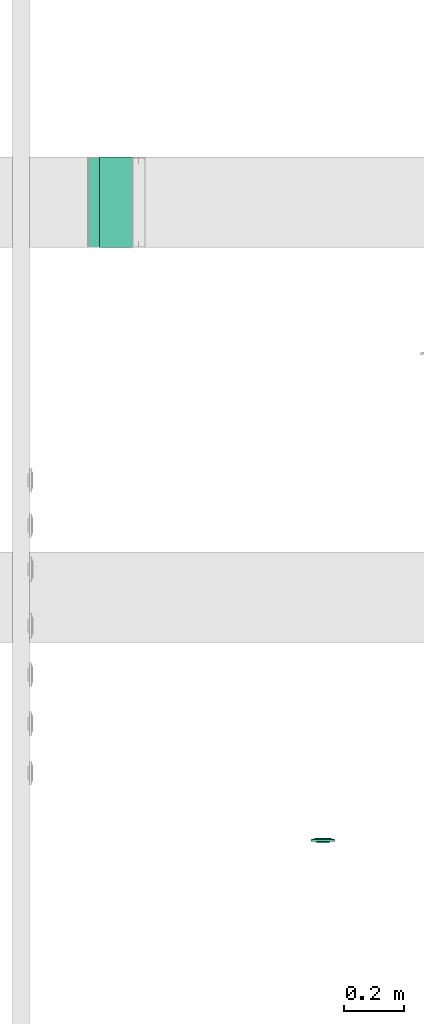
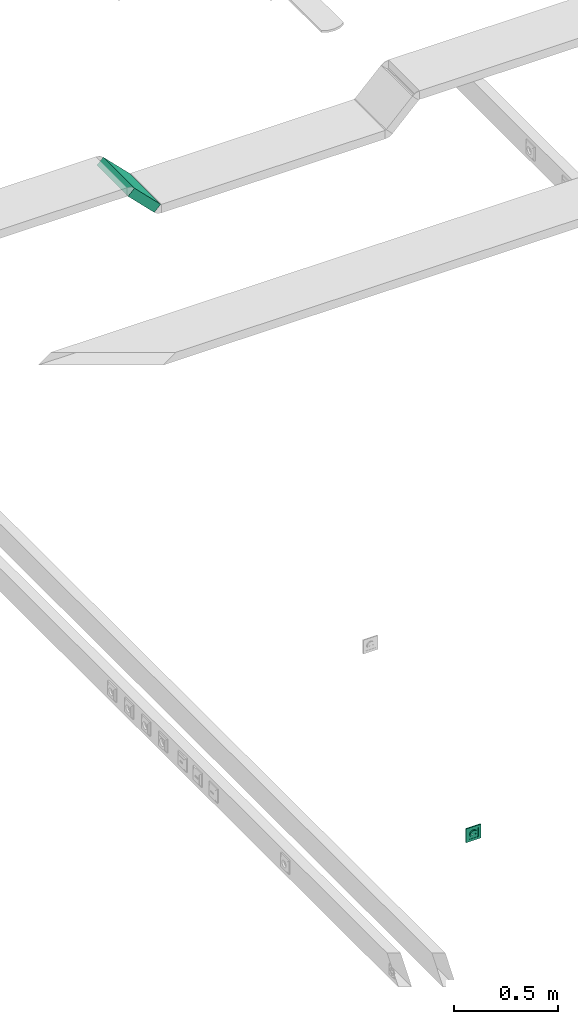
# One storey, part 52 of 166: 1 flow segment, 1 flow terminal.
"""IFC2X3 building model written with IfcOpenShell, lengths in metres."""

import ifcopenshell
import ifcopenshell.guid

model = None  # the IFC model being written
_history = None  # IfcOwnerHistory: only IFC2X3 demands one
_inside = {}  # id of a spatial element -> (the spatial element, [elements in it])
_under = {}  # id of a project, library or spatial element -> (it, [spatial elements below it])
_declared = {}  # id of a project -> (the project, [libraries it declares])
_typed = {}  # id of a type object -> (the type object, [elements of that type])
_made_of = {}  # id of a material, layer set ... -> (it, [elements and type objects made of it])


def new_model(schema):
    """Start an empty IFC model of exactly this schema.

    Asked for "IFC4X3", IfcOpenShell would pick the latest addendum, in which some entities
    have other attributes; the version numbers below select the first issue.
    IFC2X3 requires an IfcOwnerHistory on every rooted entity: one is made here for all.
    """
    global model, _history
    if schema == "IFC4X3":
        model = ifcopenshell.file(schema_version=(4, 3, 0, 0))
    else:
        model = ifcopenshell.file(schema=schema)
    _inside.clear()
    _under.clear()
    _declared.clear()
    _typed.clear()
    _made_of.clear()
    _history = None
    if model.schema == "IFC2X3":
        org = make("IfcOrganization", Name="unknown")
        user = make(
            "IfcPersonAndOrganization",
            ThePerson=make("IfcPerson", FamilyName="unknown"),
            TheOrganization=org,
        )
        app = make(
            "IfcApplication",
            ApplicationDeveloper=org,
            Version="unknown",
            ApplicationFullName="unknown",
            ApplicationIdentifier="unknown",
        )
        _history = make(
            "IfcOwnerHistory",
            OwningUser=user,
            OwningApplication=app,
            ChangeAction="ADDED",
            CreationDate=0,
        )
    return model


def make(cls, **values):
    """One entity of the class cls with the attributes given. An attribute that is None is left unset."""
    return model.create_entity(
        cls, **{name: value for name, value in values.items() if value is not None}
    )


def entity(cls, *values):
    """Any entity or typed value of the class cls, its attributes in the order of the schema. None: left unset."""
    e = model.create_entity(cls)
    for i, value in enumerate(values):
        if value is not None:
            e[i] = value
    return e


def rooted(cls, **values):
    """An entity with a GlobalId (a new one), such as an element, a storey or a relation."""
    return make(cls, GlobalId=ifcopenshell.guid.new(), OwnerHistory=_history, **values)


def si_unit(unit_type, name, prefix=None):
    """IfcSIUnit, for example si_unit("LENGTHUNIT", "METRE", prefix="MILLI")."""
    return make("IfcSIUnit", UnitType=unit_type, Prefix=prefix, Name=name)


def converted_unit(unit_type, name, factor, base, dimensions=None, offset=None):
    """IfcConversionBasedUnit, such as the inch: factor (a typed value) times the base unit."""
    return make(
        "IfcConversionBasedUnit"
        if offset is None
        else "IfcConversionBasedUnitWithOffset",
        ConversionOffset=offset,
        Dimensions=None
        if dimensions is None
        else entity("IfcDimensionalExponents", *dimensions),
        UnitType=unit_type,
        Name=name,
        ConversionFactor=make(
            "IfcMeasureWithUnit", ValueComponent=factor, UnitComponent=base
        ),
    )


def derived_unit(unit_type, elements):
    """IfcDerivedUnit: a product of units, each with its exponent."""
    return make(
        "IfcDerivedUnit",
        Elements=[
            make("IfcDerivedUnitElement", Unit=unit, Exponent=power)
            for unit, power in elements
        ],
        UnitType=unit_type,
    )


def assignment(units):
    """IfcUnitAssignment: the units of a project."""
    return None if units is None else make("IfcUnitAssignment", Units=units)


def point(xyz):
    """IfcCartesianPoint."""
    return None if xyz is None else make("IfcCartesianPoint", Coordinates=xyz)


def direction(xyz):
    """IfcDirection."""
    return None if xyz is None else make("IfcDirection", DirectionRatios=xyz)


def frame(location, z_axis=None, x_axis=None):
    """IfcAxis2Placement3D, a coordinate frame: its origin and axes. An axis left out is left unset."""
    return make(
        "IfcAxis2Placement3D",
        Location=point(location),
        Axis=direction(z_axis),
        RefDirection=direction(x_axis),
    )


def frame_2d(location, x_axis=None):
    """IfcAxis2Placement2D, a coordinate frame in the plane: its origin and x axis."""
    return make(
        "IfcAxis2Placement2D", Location=point(location), RefDirection=direction(x_axis)
    )


def origin():
    """The frame at (0, 0, 0) with its axes left unset."""
    return frame((0.0, 0.0, 0.0))


def place(relative_to, where):
    """IfcLocalPlacement: puts the frame where relative to a parent placement (None: the world)."""
    return make(
        "IfcLocalPlacement", PlacementRelTo=relative_to, RelativePlacement=where
    )


def context(
    kind, dimensions, precision=None, world=None, true_north=None, identifier=None
):
    """IfcGeometricRepresentationContext, for example the 3D "Model" context."""
    return make(
        "IfcGeometricRepresentationContext",
        ContextIdentifier=identifier,
        ContextType=kind,
        CoordinateSpaceDimension=dimensions,
        Precision=precision,
        WorldCoordinateSystem=world,
        TrueNorth=true_north,
    )


def subcontext(parent, identifier, kind, view, scale=None):
    """IfcGeometricRepresentationSubContext, for example "Body" below "Model"."""
    return make(
        "IfcGeometricRepresentationSubContext",
        ContextIdentifier=identifier,
        ContextType=kind,
        ParentContext=parent,
        TargetScale=scale,
        TargetView=view,
    )


def project(units=None, contexts=None):
    """IfcProject with its units and contexts."""
    return rooted(
        "IfcProject",
        Name="project",
        RepresentationContexts=contexts,
        UnitsInContext=assignment(units),
    )


def spatial(cls, under=None, at=None, **own):
    """A site, building, storey or space (cls), placed at a placement, below another one or the project."""
    s = rooted(cls, ObjectPlacement=at, **own)
    if under is not None:
        _under.setdefault(under.id(), (under, []))[1].append(s)
    return s


def profile(cls, at=None, kind="AREA", **sizes):
    """A parametric profile (cls). Its sizes go by their IFC names, for example OverallWidth=200.0."""
    return make(cls, ProfileType=kind, Position=at, **sizes)


def rectangle(**sizes):
    """IfcRectangleProfileDef."""
    return profile("IfcRectangleProfileDef", **sizes)


def extrude(swept, where, along, depth):
    """IfcExtrudedAreaSolid: the profile swept, set in the frame where, extruded along a direction by depth."""
    return make(
        "IfcExtrudedAreaSolid",
        SweptArea=swept,
        Position=where,
        ExtrudedDirection=direction(along),
        Depth=depth,
    )


def faces_of(points, faces, orient=None, outer=None):
    """IfcFace entities. A face is a list of loops; a loop is a list of indices into points, from 0.

    orient and outer hold one flag for each loop. By default every Orientation is true, the
    first loop of a face is its IfcFaceOuterBound and the others are IfcFaceBound.
    """
    made = []
    for i, loops in enumerate(faces):
        bounds = []
        for j, loop in enumerate(loops):
            is_outer = j == 0 if outer is None else outer[i][j]
            bounds.append(
                make(
                    "IfcFaceOuterBound" if is_outer else "IfcFaceBound",
                    Bound=make("IfcPolyLoop", Polygon=[points[k] for k in loop]),
                    Orientation=True if orient is None else orient[i][j],
                )
            )
        made.append(make("IfcFace", Bounds=bounds))
    return made


def face_set(faces, orient=None, outer=None):
    """The faces of one IfcConnectedFaceSet. surface_model builds it on its shared points."""
    return ("IfcConnectedFaceSet", faces, orient, outer)


def surface_model(cls, points, shells):
    """IfcFaceBasedSurfaceModel or IfcShellBasedSurfaceModel (cls): surfaces that need not close."""
    shared = [point(p) for p in points]
    made = [make(c, CfsFaces=faces_of(shared, fs, o, b)) for c, fs, o, b in shells]
    if cls == "IfcFaceBasedSurfaceModel":
        return make(cls, FbsmFaces=made)
    return make(cls, SbsmBoundary=made)


def shape(context_of_items, identifier, shape_type, items):
    """IfcShapeRepresentation: the items that make up one representation, for example the "Body"."""
    return make(
        "IfcShapeRepresentation",
        ContextOfItems=context_of_items,
        RepresentationIdentifier=identifier,
        RepresentationType=shape_type,
        Items=items,
    )


def source(mapping_origin, context_of_items, identifier, shape_type, items):
    """IfcRepresentationMap: a shape defined once, which mapped items show again and again."""
    return make(
        "IfcRepresentationMap",
        MappingOrigin=mapping_origin,
        MappedRepresentation=shape(context_of_items, identifier, shape_type, items),
    )


def transform(
    local_origin,
    x_axis=None,
    y_axis=None,
    z_axis=None,
    scale=None,
    scale2=None,
    scale3=None,
    uniform=True,
):
    """IfcCartesianTransformationOperator3D, or its non-uniform kind. x_axis, y_axis, z_axis: its Axis1, 2, 3."""
    if uniform:
        return make(
            "IfcCartesianTransformationOperator3D",
            Axis1=direction(x_axis),
            Axis2=direction(y_axis),
            LocalOrigin=point(local_origin),
            Scale=scale,
            Axis3=direction(z_axis),
        )
    return make(
        "IfcCartesianTransformationOperator3DnonUniform",
        Axis1=direction(x_axis),
        Axis2=direction(y_axis),
        LocalOrigin=point(local_origin),
        Scale=scale,
        Axis3=direction(z_axis),
        Scale2=scale2,
        Scale3=scale3,
    )


def mapped(mapping_source, mapping_target):
    """IfcMappedItem: shows the shape of a source again, moved by a transform."""
    return make(
        "IfcMappedItem", MappingSource=mapping_source, MappingTarget=mapping_target
    )


def made_of(thing, what):
    """Note that an element or type object is made of a material, layer set ...; save() writes the relation."""
    if what is not None:
        _made_of.setdefault(what.id(), (what, []))[1].append(thing)
    return thing


def type_object(cls, material=None, **own):
    """A type object (cls), such as IfcWallType, which elements share."""
    return made_of(rooted(cls, **own), material)


def type_shapes(of_type, sources):
    """Give a type object the sources (RepresentationMaps) that its elements show as mapped items."""
    of_type.RepresentationMaps = sources


def element(
    cls,
    number,
    at=None,
    inside=None,
    cuts=None,
    type_object=None,
    material=None,
    context=None,
    identifier="Body",
    shape_type=None,
    held_by="IfcProductDefinitionShape",
    body=None,
    shapes=None,
    **own,
):
    """One element of the class cls, such as IfcWall. Its Tag is "e" and its number.

    at: its placement. inside: the storey or other place that contains it. cuts: it is an
    opening in that element (IfcRelVoidsElement). A single representation is given by context,
    identifier, shape_type and body (its items); several are given by shapes. held_by: the class
    of the entity that holds the representations. save() writes the other relations.
    """
    e = rooted(cls, Tag="e%d" % number, ObjectPlacement=at, **own)
    if body is not None:
        shapes = [shape(context, identifier, shape_type, body)]
    if shapes is not None:
        e.Representation = make(held_by, Representations=shapes)
    if inside is not None:
        _inside.setdefault(inside.id(), (inside, []))[1].append(e)
    if cuts is not None:
        rooted(
            "IfcRelVoidsElement", RelatingBuildingElement=cuts, RelatedOpeningElement=e
        )
    if type_object is not None:
        _typed.setdefault(type_object.id(), (type_object, []))[1].append(e)
    return made_of(e, material)


def aggregate(whole, parts):
    """IfcRelAggregates: a whole, such as a stair, and the parts it consists of."""
    return rooted("IfcRelAggregates", RelatingObject=whole, RelatedObjects=parts)


def save(model, path):
    """Write the relations noted so far, then the file.

    IfcRelAggregates (storeys below a building ...), IfcRelContainedInSpatialStructure (elements
    in a storey), IfcRelDefinesByType, IfcRelAssociatesMaterial and IfcRelDeclares: one each for
    every whole, place, type object, material and project.
    """
    for whole, parts in _under.values():
        aggregate(whole, parts)
    for where, things in _inside.values():
        rooted(
            "IfcRelContainedInSpatialStructure",
            RelatedElements=things,
            RelatingStructure=where,
        )
    for kind, things in _typed.values():
        rooted("IfcRelDefinesByType", RelatedObjects=things, RelatingType=kind)
    for what, things in _made_of.values():
        rooted("IfcRelAssociatesMaterial", RelatedObjects=things, RelatingMaterial=what)
    for by, libraries in _declared.values():
        rooted("IfcRelDeclares", RelatingContext=by, RelatedDefinitions=libraries)
    model.write(path)


model = new_model("IFC2X3")

# Units and contexts
model_context = context("Model", 3, precision=1e-05, world=origin(), true_north=direction((6.12303176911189e-17, 1.0)))
body_context = subcontext(model_context, "Body", "Model", "MODEL_VIEW")
ifc_project = project(units=[si_unit("LENGTHUNIT", "METRE"), si_unit("AREAUNIT", "SQUARE_METRE"), si_unit("VOLUMEUNIT", "CUBIC_METRE"), converted_unit("PLANEANGLEUNIT", "DEGREE", entity("IfcRatioMeasure", 0.0174532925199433), si_unit("PLANEANGLEUNIT", "RADIAN"), dimensions=[0, 0, 0, 0, 0, 0, 0]), si_unit("MASSUNIT", "GRAM", prefix="KILO"), derived_unit("MASSDENSITYUNIT", [(si_unit("MASSUNIT", "GRAM", prefix="KILO"), 1), (si_unit("LENGTHUNIT", "METRE"), -3)]), si_unit("TIMEUNIT", "SECOND"), si_unit("FREQUENCYUNIT", "HERTZ"), si_unit("THERMODYNAMICTEMPERATUREUNIT", "DEGREE_CELSIUS"), derived_unit("THERMALTRANSMITTANCEUNIT", [(si_unit("MASSUNIT", "GRAM", prefix="KILO"), 1), (si_unit("THERMODYNAMICTEMPERATUREUNIT", "KELVIN"), -1), (si_unit("TIMEUNIT", "SECOND"), -3)]), derived_unit("VOLUMETRICFLOWRATEUNIT", [(si_unit("LENGTHUNIT", "METRE"), 3), (si_unit("TIMEUNIT", "SECOND"), -1)]), si_unit("ELECTRICCURRENTUNIT", "AMPERE"), si_unit("ELECTRICVOLTAGEUNIT", "VOLT"), si_unit("POWERUNIT", "WATT"), si_unit("FORCEUNIT", "NEWTON"), si_unit("ILLUMINANCEUNIT", "LUX"), si_unit("LUMINOUSFLUXUNIT", "LUMEN"), si_unit("LUMINOUSINTENSITYUNIT", "CANDELA"), derived_unit("USERDEFINED", [(si_unit("MASSUNIT", "GRAM", prefix="KILO"), -1), (si_unit("LENGTHUNIT", "METRE"), -2), (si_unit("TIMEUNIT", "SECOND"), 3), (si_unit("LUMINOUSFLUXUNIT", "LUMEN"), 1)]), derived_unit("LINEARVELOCITYUNIT", [(si_unit("LENGTHUNIT", "METRE"), 1), (si_unit("TIMEUNIT", "SECOND"), -1)]), si_unit("PRESSUREUNIT", "PASCAL"), derived_unit("USERDEFINED", [(si_unit("LENGTHUNIT", "METRE"), -2), (si_unit("MASSUNIT", "GRAM", prefix="KILO"), 1), (si_unit("TIMEUNIT", "SECOND"), -2)])], contexts=[model_context])

# Site, building, storey
site_placement = place(None, origin())
site = spatial("IfcSite", under=ifc_project, at=site_placement, Name="Default", CompositionType="ELEMENT")
building_placement = place(site_placement, origin())
building = spatial("IfcBuilding", under=site, at=building_placement, CompositionType="ELEMENT")
storey_placement = place(building_placement, frame((0.0, 0.0, 4.27)))
storey = spatial("IfcBuildingStorey", under=building, at=storey_placement, Name="01", CompositionType="ELEMENT", Elevation=4.27)

# Flow segment
cable_carrier_segment_type = type_object("IfcCableCarrierSegmentType", Name="Cable Tray with Fittings:Chemins de câbles en treillis_Chemins de câbles en treillis", PredefinedType="NOTDEFINED")
flow_segment_placement = place(storey_placement, origin())
element("IfcFlowSegment", 1, at=flow_segment_placement, inside=storey, type_object=cable_carrier_segment_type, Name="Cable Tray with Fittings:Chemins de câbles en treillis_Chemins de câbles en treillis", ObjectType="Cable Tray with Fittings:Chemins de câbles en treillis_Chemins de câbles en treillis", context=body_context, shape_type="SweptSolid", body=[
    extrude(rectangle(XDim=0.0500000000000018, YDim=0.205080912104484, at=frame_2d((2.29677388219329e-15, -7.70217223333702e-16), x_axis=(0.0, 1.0))), frame((33.8963611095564, -188.237883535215, 2.75298194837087), z_axis=(0.0, 1.0, 0.0), x_axis=(0.707106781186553, 0.0, -0.707106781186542)), (0.0, 0.0, 1.0), 0.300000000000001),
])

# Flow terminal
light_fixture_type = type_object("IfcLightFixtureType", Name="Attente", PredefinedType="NOTDEFINED")
shared_shape = source(origin(), body_context, "Body", "SurfaceModel", [
    surface_model("IfcFaceBasedSurfaceModel", [(0.00225000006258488, 0.00949633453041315, 0.0127499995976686), (0.0, 0.00949633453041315, 0.0104999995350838), (0.0, 0.0101656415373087, 0.0115376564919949), (0.0, 0.0101656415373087, 0.0139623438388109), (0.0, 0.00984531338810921, 0.0144589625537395), (0.0, 0.0102778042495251, 0.0121178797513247), (0.0, 0.0102778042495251, 0.0133821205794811), (0.0, 0.010399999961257, 0.0127499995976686), (0.0, 0.00949633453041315, 0.0149999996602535), (-0.00225000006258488, 0.00949633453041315, 0.0127499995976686), (0.0, 0.00984531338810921, 0.0110410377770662), (0.0, 0.00949633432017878, 0.0127499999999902), (-0.0022499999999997, 0.0094963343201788, 0.0127499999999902), (-0.00217333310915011, 0.00949633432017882, 0.0121676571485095), (-0.0019485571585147, 0.00949633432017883, 0.0116249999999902), (-0.00159099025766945, 0.00949633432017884, 0.0111590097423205), (-0.00112499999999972, 0.00949633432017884, 0.0108014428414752), (-0.000582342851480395, 0.00949633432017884, 0.0105766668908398), (0.0, 0.00949633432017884, 0.0104999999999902), (0.000582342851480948, 0.00949633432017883, 0.0105766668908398), (0.00112500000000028, 0.00949633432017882, 0.0108014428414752), (0.00159099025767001, 0.00949633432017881, 0.0111590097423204), (0.00194855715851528, 0.00949633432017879, 0.0116249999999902), (0.0021733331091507, 0.00949633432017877, 0.0121676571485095), (0.0022500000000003, 0.00949633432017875, 0.0127499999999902), (0.00217333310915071, 0.00949633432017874, 0.0133323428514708), (0.0019485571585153, 0.00949633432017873, 0.0138749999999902), (0.00159099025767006, 0.00949633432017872, 0.0143409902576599), (0.00112500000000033, 0.00949633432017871, 0.0146985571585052), (0.000582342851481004, 0.00949633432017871, 0.0149233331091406), (0.0, 0.00949633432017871, 0.0149999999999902), (-0.000582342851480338, 0.00949633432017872, 0.0149233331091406), (-0.00112499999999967, 0.00949633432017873, 0.0146985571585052), (-0.00159099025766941, 0.00949633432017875, 0.0143409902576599), (-0.00194855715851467, 0.00949633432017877, 0.0138749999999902), (-0.00217333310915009, 0.00949633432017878, 0.0133323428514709), (-0.00224999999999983, -0.00360000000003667, 0.0127499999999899), (-0.00217333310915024, -0.00360000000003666, 0.0121676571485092), (-0.00194855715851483, -0.00360000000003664, 0.0116249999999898), (-0.00159099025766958, -0.00360000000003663, 0.0111590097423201), (-0.00112499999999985, -0.00360000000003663, 0.0108014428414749), (-0.000582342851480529, -0.00360000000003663, 0.0105766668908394), (0.0, -0.00360000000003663, 0.0104999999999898), (0.000582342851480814, -0.00360000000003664, 0.0105766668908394), (0.00112500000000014, -0.00360000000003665, 0.0108014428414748), (0.00159099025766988, -0.00360000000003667, 0.0111590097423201), (0.00194855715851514, -0.00360000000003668, 0.0116249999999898), (0.00217333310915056, -0.0036000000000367, 0.0121676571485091), (0.00225000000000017, -0.00360000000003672, 0.0127499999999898), (0.00217333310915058, -0.00360000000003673, 0.0133323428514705), (0.00194855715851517, -0.00360000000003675, 0.0138749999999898), (0.00159099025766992, -0.00360000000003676, 0.0143409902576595), (0.00112500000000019, -0.00360000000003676, 0.0146985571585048), (0.00058234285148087, -0.00360000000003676, 0.0149233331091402), (0.0, -0.00360000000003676, 0.0149999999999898), (-0.000582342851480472, -0.00360000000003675, 0.0149233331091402), (-0.0011249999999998, -0.00360000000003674, 0.0146985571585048), (-0.00159099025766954, -0.00360000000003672, 0.0143409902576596), (-0.0019485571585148, -0.00360000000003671, 0.0138749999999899), (-0.00217333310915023, -0.00360000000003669, 0.0133323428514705), (-0.0270000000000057, 0.0113999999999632, 0.0269999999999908), (0.0269999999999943, 0.0113999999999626, 0.0269999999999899), (0.0269999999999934, 0.0113999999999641, -0.0270000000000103), (-0.0270000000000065, 0.0113999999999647, -0.0270000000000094), (0.0199999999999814, 0.0113999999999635, 0.0), (0.0193185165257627, 0.0113999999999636, -0.00517638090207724), (0.0173205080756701, 0.0113999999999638, -0.0100000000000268), (0.0141421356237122, 0.0113999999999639, -0.0141421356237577), (0.00999999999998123, 0.011399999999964, -0.0173205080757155), (0.00517638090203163, 0.0113999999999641, -0.019318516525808), (0.0, 0.0113999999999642, -0.0200000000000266), (-0.00517638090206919, 0.0113999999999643, -0.0193185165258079), (-0.0100000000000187, 0.0113999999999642, -0.0173205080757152), (-0.0141421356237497, 0.0113999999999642, -0.0141421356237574), (-0.0173205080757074, 0.0113999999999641, -0.0100000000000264), (-0.0193185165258, 0.011399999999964, -0.0051763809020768), (-0.0200000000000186, 0.0113999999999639, 0.0), (-0.0193185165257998, 0.0113999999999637, 0.00517638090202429), (-0.0173205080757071, 0.0113999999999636, 0.00999999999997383), (-0.0141421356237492, 0.0113999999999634, 0.0141421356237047), (-0.0100000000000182, 0.0113999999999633, 0.0173205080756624), (-0.00517638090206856, 0.0113999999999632, 0.0193185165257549), (0.0, 0.0113999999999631, 0.0199999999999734), (0.00517638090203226, 0.0113999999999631, 0.0193185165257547), (0.0099999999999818, 0.0113999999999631, 0.017320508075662), (0.0141421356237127, 0.0113999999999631, 0.0141421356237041), (0.0173205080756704, 0.0113999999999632, 0.00999999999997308), (0.0193185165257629, 0.0113999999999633, 0.00517638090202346), (-0.0270000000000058, 0.00199999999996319, 0.0269999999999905), (-0.0270000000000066, 0.00199999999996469, -0.0270000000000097), (0.0269999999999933, 0.00199999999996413, -0.0270000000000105), (0.0269999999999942, 0.00199999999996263, 0.0269999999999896), (-0.0210000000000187, 0.00199999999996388, 0.0), (-0.0202844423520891, 0.00199999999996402, -0.00543519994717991), (-0.0181865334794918, 0.00199999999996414, -0.0105000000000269), (-0.0148492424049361, 0.00199999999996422, -0.0148492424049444), (-0.0105000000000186, 0.00199999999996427, -0.0181865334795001), (-0.00543519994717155, 0.00199999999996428, -0.0202844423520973), (0.0, 0.00199999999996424, -0.0210000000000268), (0.00543519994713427, 0.00199999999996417, -0.0202844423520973), (0.0104999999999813, 0.00199999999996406, -0.0181865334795), (0.0148492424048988, 0.00199999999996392, -0.0148492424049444), (0.0181865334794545, 0.00199999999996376, -0.0105000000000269), (0.0202844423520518, 0.0019999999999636, -0.00543519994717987), (0.0209999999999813, 0.00199999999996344, 0.0), (0.0202844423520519, 0.0019999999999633, 0.0054351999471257), (0.0181865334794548, 0.00199999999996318, 0.0104999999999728), (0.0148492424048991, 0.00199999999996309, 0.0148492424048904), (0.0104999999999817, 0.00199999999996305, 0.0181865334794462), (0.00543519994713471, 0.00199999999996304, 0.0202844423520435), (0.0, 0.00199999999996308, 0.0209999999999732), (-0.00543519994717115, 0.00199999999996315, 0.0202844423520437), (-0.0105000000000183, 0.00199999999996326, 0.0181865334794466), (-0.0148492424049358, 0.0019999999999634, 0.014849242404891), (-0.0181865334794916, 0.00199999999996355, 0.0104999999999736), (-0.020284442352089, 0.00199999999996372, 0.00543519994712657), (-0.0200000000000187, -0.00360000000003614, 0.0), (-0.0193185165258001, -0.003600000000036, -0.00517638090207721), (-0.0173205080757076, -0.00360000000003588, -0.0100000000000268), (-0.0141421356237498, -0.0036000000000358, -0.0141421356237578), (-0.0100000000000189, -0.00360000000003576, -0.0173205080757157), (-0.00517638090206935, -0.00360000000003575, -0.0193185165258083), (0.0, -0.00360000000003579, -0.020000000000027), (0.00517638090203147, -0.00360000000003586, -0.0193185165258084), (0.00999999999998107, -0.00360000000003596, -0.0173205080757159), (0.0141421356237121, -0.00360000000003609, -0.0141421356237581), (0.0173205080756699, -0.00360000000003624, -0.0100000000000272), (0.0193185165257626, -0.0036000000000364, -0.00517638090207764), (0.0199999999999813, -0.00360000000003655, 0.0), (0.0193185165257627, -0.00360000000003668, 0.00517638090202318), (0.0173205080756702, -0.0036000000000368, 0.00999999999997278), (0.0141421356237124, -0.00360000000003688, 0.0141421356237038), (0.00999999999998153, -0.00360000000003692, 0.0173205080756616), (0.00517638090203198, -0.00360000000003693, 0.0193185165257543), (0.0, -0.0036000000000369, 0.019999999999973), (-0.00517638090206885, -0.00360000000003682, 0.0193185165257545), (-0.0100000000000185, -0.00360000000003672, 0.0173205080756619), (-0.0141421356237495, -0.00360000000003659, 0.0141421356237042), (-0.0173205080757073, -0.00360000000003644, 0.00999999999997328), (-0.0193185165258, -0.00360000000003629, 0.00517638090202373), (0.0123499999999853, -0.00360000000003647, 0.0), (0.0122562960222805, -0.00360000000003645, -0.000711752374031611), (0.0119815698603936, -0.00360000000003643, -0.00137499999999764), (0.0115445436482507, -0.00360000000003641, -0.00194454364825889), (0.0109749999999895, -0.00360000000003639, -0.00238156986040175), (0.0103117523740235, -0.00360000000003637, -0.00265629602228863), (0.00959999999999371, -0.00360000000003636, -0.00274999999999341), (0.00888824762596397, -0.00360000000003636, -0.00265629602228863), (0.00822499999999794, -0.00360000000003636, -0.00238156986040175), (0.00765545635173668, -0.00360000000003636, -0.00194454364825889), (0.00721843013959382, -0.00360000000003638, -0.00137499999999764), (0.00694370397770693, -0.00360000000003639, -0.000711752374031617), (0.00685000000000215, -0.00360000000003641, 0.0), (0.00694370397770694, -0.00360000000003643, 0.000711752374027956), (0.00721843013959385, -0.00360000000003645, 0.00137499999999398), (0.00765545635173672, -0.00360000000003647, 0.00194454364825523), (0.00822499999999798, -0.00360000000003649, 0.00238156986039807), (0.00888824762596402, -0.00360000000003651, 0.00265629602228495), (0.00959999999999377, -0.00360000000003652, 0.0027499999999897), (0.0103117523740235, -0.00360000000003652, 0.00265629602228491), (0.0109749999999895, -0.00360000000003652, 0.00238156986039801), (0.0115445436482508, -0.00360000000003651, 0.00194454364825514), (0.0119815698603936, -0.0036000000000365, 0.00137499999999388), (0.0122562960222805, -0.00360000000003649, 0.000711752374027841), (-0.00685000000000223, -0.00360000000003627, 0.0), (-0.00694370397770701, -0.00360000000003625, -0.000711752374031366), (-0.0072184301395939, -0.00360000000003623, -0.00137499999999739), (-0.00765545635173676, -0.00360000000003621, -0.00194454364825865), (-0.00822499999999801, -0.00360000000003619, -0.0023815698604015), (-0.00888824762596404, -0.00360000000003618, -0.00265629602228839), (-0.00959999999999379, -0.00360000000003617, -0.00274999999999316), (-0.0103117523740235, -0.00360000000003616, -0.00265629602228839), (-0.0109749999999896, -0.00360000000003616, -0.00238156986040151), (-0.0115445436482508, -0.00360000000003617, -0.00194454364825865), (-0.0119815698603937, -0.00360000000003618, -0.0013749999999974), (-0.0122562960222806, -0.0036000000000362, -0.000711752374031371), (-0.0123499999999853, -0.00360000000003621, 0.0), (-0.0122562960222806, -0.00360000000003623, 0.000711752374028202), (-0.0119815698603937, -0.00360000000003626, 0.00137499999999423), (-0.0115445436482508, -0.00360000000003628, 0.00194454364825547), (-0.0109749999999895, -0.00360000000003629, 0.00238156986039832), (-0.0103117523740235, -0.00360000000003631, 0.00265629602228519), (-0.00959999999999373, -0.00360000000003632, 0.00274999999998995), (-0.00888824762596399, -0.00360000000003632, 0.00265629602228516), (-0.00822499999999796, -0.00360000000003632, 0.00238156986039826), (-0.00765545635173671, -0.00360000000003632, 0.00194454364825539), (-0.00721843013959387, -0.0036000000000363, 0.00137499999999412), (-0.00694370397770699, -0.00360000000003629, 0.000711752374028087), (-0.0210000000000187, -0.00460000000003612, 0.0), (-0.0202844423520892, -0.00460000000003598, -0.00543519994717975), (-0.018186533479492, -0.00460000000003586, -0.0105000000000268), (-0.0148492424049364, -0.00460000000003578, -0.0148492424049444), (-0.0105000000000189, -0.00460000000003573, -0.0181865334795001), (-0.00543519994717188, -0.00460000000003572, -0.0202844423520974), (0.0, -0.00460000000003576, -0.021000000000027), (0.00543519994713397, -0.00460000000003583, -0.0202844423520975), (0.0104999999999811, -0.00460000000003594, -0.0181865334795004), (0.0148492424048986, -0.00460000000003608, -0.0148492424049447), (0.0181865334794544, -0.00460000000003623, -0.0105000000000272), (0.0202844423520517, -0.0046000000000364, -0.0054351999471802), (0.0209999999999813, -0.00460000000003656, 0.0), (0.0202844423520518, -0.0046000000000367, 0.00543519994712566), (0.0181865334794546, -0.00460000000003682, 0.0104999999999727), (0.014849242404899, -0.00460000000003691, 0.0148492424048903), (0.0104999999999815, -0.00460000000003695, 0.0181865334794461), (0.0054351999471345, -0.00460000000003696, 0.0202844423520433), (0.0, -0.00460000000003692, 0.020999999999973), (-0.00543519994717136, -0.00460000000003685, 0.0202844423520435), (-0.0105000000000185, -0.00460000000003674, 0.0181865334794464), (-0.014849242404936, -0.0046000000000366, 0.0148492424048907), (-0.0181865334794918, -0.00460000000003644, 0.0104999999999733), (-0.0202844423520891, -0.00460000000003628, 0.00543519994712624), (0.00685000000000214, -0.00460000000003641, 0.0), (0.00694370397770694, -0.00460000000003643, 0.000711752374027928), (0.00721843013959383, -0.00460000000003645, 0.00137499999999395), (0.0076554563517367, -0.00460000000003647, 0.0019445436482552), (0.00822499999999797, -0.00460000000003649, 0.00238156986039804), (0.00888824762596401, -0.0046000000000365, 0.00265629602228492), (0.00959999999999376, -0.00460000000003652, 0.00274999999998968), (0.0103117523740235, -0.00460000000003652, 0.00265629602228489), (0.0109749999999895, -0.00460000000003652, 0.00238156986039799), (0.0115445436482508, -0.00460000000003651, 0.00194454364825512), (0.0119815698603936, -0.0046000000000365, 0.00137499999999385), (0.0122562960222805, -0.00460000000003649, 0.000711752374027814), (0.0123499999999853, -0.00460000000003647, 0.0), (0.0122562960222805, -0.00460000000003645, -0.00071175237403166), (0.0119815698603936, -0.00460000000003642, -0.00137499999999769), (0.0115445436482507, -0.0046000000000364, -0.00194454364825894), (0.0109749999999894, -0.00460000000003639, -0.00238156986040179), (0.0103117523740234, -0.00460000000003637, -0.00265629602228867), (0.00959999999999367, -0.00460000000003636, -0.00274999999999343), (0.00888824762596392, -0.00460000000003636, -0.00265629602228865), (0.00822499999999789, -0.00460000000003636, -0.00238156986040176), (0.00765545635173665, -0.00460000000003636, -0.00194454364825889), (0.00721843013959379, -0.00460000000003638, -0.00137499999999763), (0.00694370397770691, -0.00460000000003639, -0.0007117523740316), (-0.0123499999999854, -0.00460000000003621, 0.0), (-0.0122562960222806, -0.00460000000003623, 0.000711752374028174), (-0.0119815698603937, -0.00460000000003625, 0.0013749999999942), (-0.0115445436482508, -0.00460000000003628, 0.00194454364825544), (-0.0109749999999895, -0.00460000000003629, 0.00238156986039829), (-0.0103117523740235, -0.00460000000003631, 0.00265629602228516), (-0.00959999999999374, -0.00460000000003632, 0.00274999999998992), (-0.008888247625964, -0.00460000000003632, 0.00265629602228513), (-0.00822499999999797, -0.00460000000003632, 0.00238156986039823), (-0.00765545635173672, -0.00460000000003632, 0.00194454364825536), (-0.00721843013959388, -0.0046000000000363, 0.0013749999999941), (-0.006943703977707, -0.00460000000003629, 0.000711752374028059), (-0.00685000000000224, -0.00460000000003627, 0.0), (-0.00694370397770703, -0.00460000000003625, -0.000711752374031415), (-0.00721843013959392, -0.00460000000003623, -0.00137499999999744), (-0.00765545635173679, -0.00460000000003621, -0.00194454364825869), (-0.00822499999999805, -0.00460000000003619, -0.00238156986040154), (-0.00888824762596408, -0.00460000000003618, -0.00265629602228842), (-0.00959999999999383, -0.00460000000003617, -0.00274999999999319), (-0.0103117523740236, -0.00460000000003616, -0.00265629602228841), (-0.0109749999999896, -0.00460000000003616, -0.00238156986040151), (-0.0115445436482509, -0.00460000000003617, -0.00194454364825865), (-0.0119815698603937, -0.00460000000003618, -0.00137499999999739), (-0.0122562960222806, -0.00460000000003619, -0.000711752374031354), (-0.0403499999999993, 0.00659999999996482, 0.0403499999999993), (-0.0403500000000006, 0.00659999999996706, -0.0403500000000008), (0.0403499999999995, 0.00659999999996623, -0.0403500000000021), (0.0403500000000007, 0.00659999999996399, 0.040349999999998), (-0.0269999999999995, 0.00659999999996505, 0.026999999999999), (0.0270000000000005, 0.0065999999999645, 0.0269999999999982), (0.0269999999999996, 0.006599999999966, -0.0270000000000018), (-0.0270000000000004, 0.00659999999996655, -0.027000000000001), (-0.0269999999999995, 0.0103999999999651, 0.0269999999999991), (0.0270000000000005, 0.0103999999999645, 0.0269999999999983), (0.0269999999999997, 0.010399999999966, -0.0270000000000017), (-0.0270000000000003, 0.0103999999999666, -0.0270000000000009), (-0.0403499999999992, 0.00659999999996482, 0.0403499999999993), (-0.0403500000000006, 0.00659999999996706, -0.0403500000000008), (0.0403499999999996, 0.00659999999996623, -0.0403500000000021), (0.0403500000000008, 0.00659999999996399, 0.040349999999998), (0.0270000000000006, 0.0065999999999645, 0.0269999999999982), (0.0269999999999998, 0.006599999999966, -0.0270000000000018), (-0.0270000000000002, 0.00659999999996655, -0.027000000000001), (-0.0269999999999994, 0.00659999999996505, 0.026999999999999), (-0.0403499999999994, 0.0, 0.0403499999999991), (-0.0403500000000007, 0.0, -0.040350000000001), (0.0403499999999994, 0.0, -0.0403500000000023), (0.0403500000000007, 0.0, 0.0403499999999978), (-0.0269999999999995, 0.0, 0.0269999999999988), (0.0270000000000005, 0.0, 0.026999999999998), (0.0269999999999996, 0.0, -0.027000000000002), (-0.0270000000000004, 0.0, -0.0270000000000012)], [face_set([[[0, 1, 2]], [[3, 4, 2, 5]], [[6, 3, 5, 7]], [[2, 4, 0]], [[4, 8, 0]], [[3, 9, 8]], [[1, 9, 10]], [[2, 3, 6, 7]], [[3, 10, 9]], [[2, 10, 3]], [[11, 1, 0, 8]], [[11, 8, 9, 1]]]), face_set([[[12, 13, 14, 15, 16, 17, 18, 19, 20, 21, 22, 23, 24, 25, 26, 27, 28, 29, 30, 31, 32, 33, 34, 35]], [[36, 37, 38, 39, 40, 41, 42, 43, 44, 45, 46, 47, 48, 49, 50, 51, 52, 53, 54, 55, 56, 57, 58, 59]], [[48, 47, 23, 24]], [[47, 46, 22, 23]], [[45, 44, 20, 21]], [[46, 45, 21, 22]], [[44, 43, 19, 20]], [[18, 19, 43, 42]], [[42, 41, 17, 18]], [[41, 40, 16, 17]], [[39, 38, 14, 15]], [[40, 39, 15, 16]], [[38, 37, 13, 14]], [[12, 13, 37, 36]], [[36, 59, 35, 12]], [[59, 58, 34, 35]], [[57, 56, 32, 33]], [[58, 57, 33, 34]], [[56, 55, 31, 32]], [[30, 31, 55, 54]], [[54, 53, 29, 30]], [[53, 52, 28, 29]], [[51, 50, 26, 27]], [[52, 51, 27, 28]], [[50, 49, 25, 26]], [[24, 25, 49, 48]]]), face_set([[[60, 61, 62, 63], [64, 65, 66, 67, 68, 69, 70, 71, 72, 73, 74, 75, 76, 77, 78, 79, 80, 81, 82, 83, 84, 85, 86, 87]], [[88, 89, 90, 91], [92, 93, 94, 95, 96, 97, 98, 99, 100, 101, 102, 103, 104, 105, 106, 107, 108, 109, 110, 111, 112, 113, 114, 115]], [[61, 60, 88, 91]], [[62, 61, 91, 90]], [[63, 62, 90, 89]], [[60, 63, 89, 88]], [[116, 117, 118, 119, 120, 121, 122, 123, 124, 125, 126, 127, 128, 129, 130, 131, 132, 133, 134, 135, 136, 137, 138, 139], [140, 141, 142, 143, 144, 145, 146, 147, 148, 149, 150, 151, 152, 153, 154, 155, 156, 157, 158, 159, 160, 161, 162, 163], [164, 165, 166, 167, 168, 169, 170, 171, 172, 173, 174, 175, 176, 177, 178, 179, 180, 181, 182, 183, 184, 185, 186, 187]], [[64, 128, 127, 65]], [[65, 127, 126, 66]], [[67, 125, 124, 68]], [[66, 126, 125, 67]], [[68, 124, 123, 69]], [[122, 70, 69, 123]], [[70, 122, 121, 71]], [[71, 121, 120, 72]], [[73, 119, 118, 74]], [[72, 120, 119, 73]], [[74, 118, 117, 75]], [[116, 76, 75, 117]], [[76, 116, 139, 77]], [[77, 139, 138, 78]], [[79, 137, 136, 80]], [[78, 138, 137, 79]], [[80, 136, 135, 81]], [[134, 82, 81, 135]], [[82, 134, 133, 83]], [[83, 133, 132, 84]], [[84, 132, 131, 85]], [[85, 131, 130, 86]], [[130, 129, 87, 86]], [[64, 87, 129, 128]], [[188, 189, 190, 191, 192, 193, 194, 195, 196, 197, 198, 199, 200, 201, 202, 203, 204, 205, 206, 207, 208, 209, 210, 211], [212, 213, 214, 215, 216, 217, 218, 219, 220, 221, 222, 223, 224, 225, 226, 227, 228, 229, 230, 231, 232, 233, 234, 235], [236, 237, 238, 239, 240, 241, 242, 243, 244, 245, 246, 247, 248, 249, 250, 251, 252, 253, 254, 255, 256, 257, 258, 259]], [[200, 199, 103, 104]], [[199, 198, 102, 103]], [[197, 196, 100, 101]], [[198, 197, 101, 102]], [[196, 195, 99, 100]], [[98, 99, 195, 194]], [[194, 193, 97, 98]], [[193, 192, 96, 97]], [[191, 190, 94, 95]], [[192, 191, 95, 96]], [[190, 189, 93, 94]], [[92, 93, 189, 188]], [[188, 211, 115, 92]], [[211, 210, 114, 115]], [[209, 208, 112, 113]], [[210, 209, 113, 114]], [[208, 207, 111, 112]], [[110, 111, 207, 206]], [[206, 205, 109, 110]], [[205, 204, 108, 109]], [[203, 202, 106, 107]], [[204, 203, 107, 108]], [[202, 201, 105, 106]], [[104, 105, 201, 200]], [[141, 225, 226, 142]], [[140, 224, 225, 141]], [[144, 228, 229, 145]], [[143, 227, 228, 144]], [[142, 226, 227, 143]], [[230, 146, 145, 229]], [[149, 233, 232, 148]], [[148, 232, 231, 147]], [[152, 212, 235, 151]], [[151, 235, 234, 150]], [[150, 234, 233, 149]], [[146, 230, 231, 147]], [[154, 214, 213, 153]], [[153, 213, 212, 152]], [[157, 217, 216, 156]], [[156, 216, 215, 155]], [[155, 215, 214, 154]], [[218, 158, 157, 217]], [[160, 220, 221, 161]], [[159, 219, 220, 160]], [[163, 223, 224, 140]], [[162, 222, 223, 163]], [[161, 221, 222, 162]], [[158, 218, 219, 159]], [[166, 250, 249, 165]], [[165, 249, 248, 164]], [[169, 253, 252, 168]], [[168, 252, 251, 167]], [[167, 251, 250, 166]], [[254, 170, 169, 253]], [[172, 256, 257, 173]], [[171, 255, 256, 172]], [[175, 259, 236, 176]], [[174, 258, 259, 175]], [[173, 257, 258, 174]], [[170, 254, 255, 171]], [[177, 237, 238, 178]], [[176, 236, 237, 177]], [[180, 240, 241, 181]], [[179, 239, 240, 180]], [[178, 238, 239, 179]], [[242, 182, 181, 241]], [[185, 245, 244, 184]], [[184, 244, 243, 183]], [[164, 248, 247, 187]], [[187, 247, 246, 186]], [[186, 246, 245, 185]], [[182, 242, 243, 183]]]), face_set([[[260, 261, 262, 263], [264, 265, 266, 267]], [[260, 268, 269, 263]], [[263, 269, 270, 262]], [[262, 270, 271, 261]], [[261, 271, 268, 260]], [[264, 265, 269, 268]], [[265, 266, 270, 269]], [[266, 267, 271, 270]], [[268, 271, 267, 264]]]), face_set([[[272, 273, 274, 275], [276, 277, 278, 279]], [[280, 281, 282, 283], [284, 285, 286, 287]], [[275, 272, 280, 283]], [[274, 275, 283, 282]], [[273, 274, 282, 281]], [[272, 273, 281, 280]], [[284, 285, 276, 279]], [[285, 286, 277, 276]], [[286, 287, 278, 277]], [[279, 278, 287, 284]]])]),
])
type_shapes(light_fixture_type, [shared_shape])
flow_terminal_placement = place(storey_placement, frame((34.582145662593, -190.206469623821, 0.0)))
element("IfcFlowTerminal", 2, at=flow_terminal_placement, inside=storey, type_object=light_fixture_type, Name="INT_Attente électrique:Attente", ObjectType="INT_Attente électrique:Attente", context=body_context, shape_type="MappedRepresentation", body=[
    mapped(shared_shape, transform((0.0, 0.0, 0.0), scale=1.0)),
])

save(model, "model.ifc")
